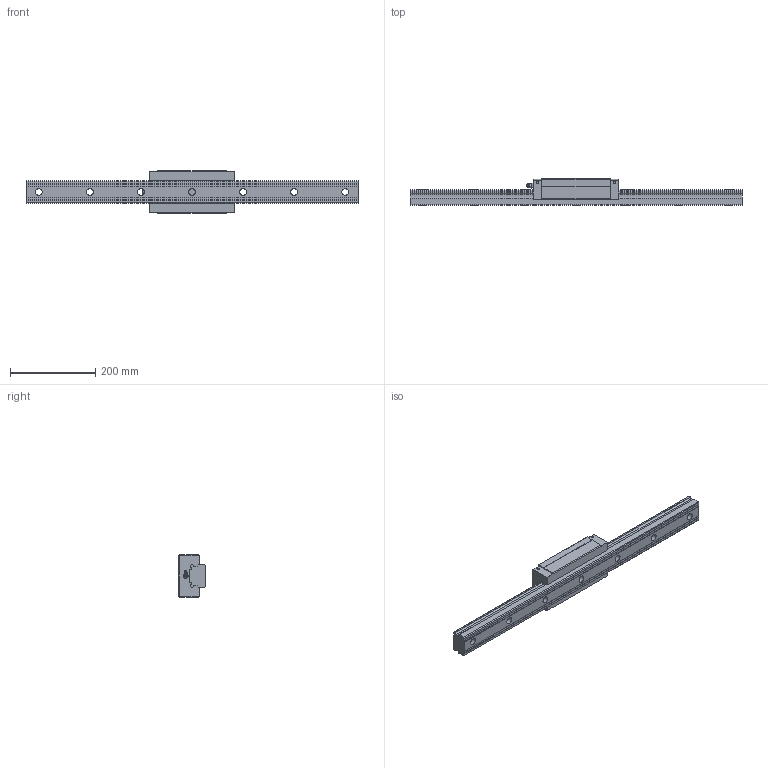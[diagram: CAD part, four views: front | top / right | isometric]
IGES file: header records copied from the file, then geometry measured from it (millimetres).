
Start section: Data from Parasolid IGES Translator 26.0.171, Copyright(c) 2006 Siemens PLM Software. All Rights Reserved.
Global section: file name: SVR55LR1SS-780L_G30_0_B-PT18_289-75_0_0_0_1.igs; native system: By Siemens PLM Incorporated; preprocessor: XPlus GENERIC/IGES 26.0.171; author: Noname; organization: Noname; date: 20240517.070740; units: millimetre
Bounding box: 780 x 63 x 100 mm (x, y, z)
Surface area: 242390.3 mm2 (no closed solid volume)
Topology: 0 solids, 0 shells, 187 faces, 1019 edges, 974 vertices
Faces by surface type: extrusion 100, revolution 87
